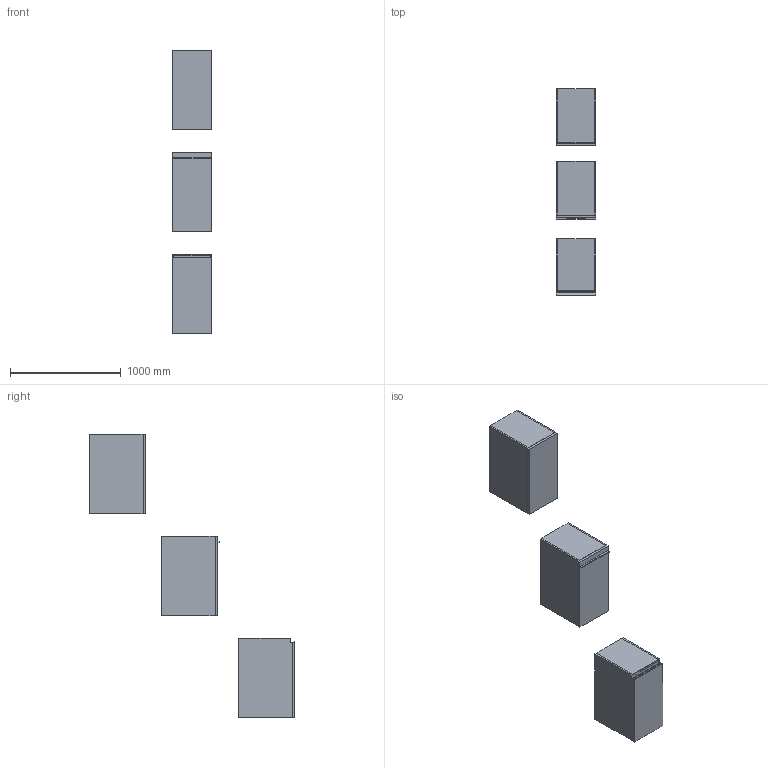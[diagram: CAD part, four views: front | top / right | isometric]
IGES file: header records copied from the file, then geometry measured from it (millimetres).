
Start section: Data from Parasolid IGES Translator 19.0.9, Copyright(c) 2006 Siemens PL M Software. All Rights Reserved.
Global section: file name: noorth-SI-H 72 D 51 W 36_8666.igs; native system: By Siemens PLM Incorporated; preprocessor: XPlus GENERIC/IGES 19.0.9; author: Noname; organization: Noname; date: 20200601.122455; units: metre
Bounding box: 360.01 x 1857.1 x 2560 mm (x, y, z)
Volume: 65284006.5 mm3; surface area: 9568397.1 mm2
Topology: 20 solids, 20 shells, 178 faces, 382 edges, 234 vertices
Faces by surface type: plane 134, extrusion 16, bspline 16, cylinder 12
